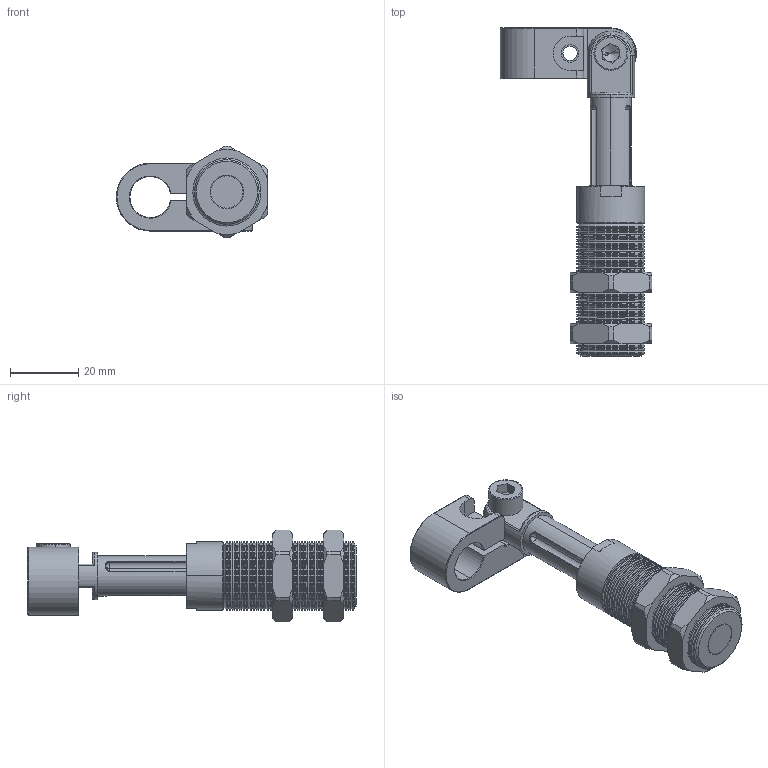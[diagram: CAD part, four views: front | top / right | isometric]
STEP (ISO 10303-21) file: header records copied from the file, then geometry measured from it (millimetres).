
FILE_DESCRIPTION (( 'STEP AP214' ), '1' );
FILE_NAME ('GSRT2026-12.STEP', '2019-11-12T08:10:11', ( '微软用户' ), ( '微软中国' ), 'SwSTEP 2.0', 'SolidWorks 2016', '' );
FILE_SCHEMA (( 'AUTOMOTIVE_DESIGN' ));
Length unit declared in the file: millimetre
Products named in the file (1): GSRT2026-12
Bounding box: 44.5 x 96.5 x 27 mm (x, y, z)
Volume: 26850.3 mm3; surface area: 18876.3 mm2
Topology: 7 solids, 7 shells, 548 faces, 1267 edges, 744 vertices
Faces by surface type: cone 243, cylinder 190, plane 79, sphere 14, bspline 12, torus 10
Entity records: 27167 total; most frequent: CARTESIAN_POINT 8680, DIRECTION 2710, ORIENTED_EDGE 2530, EDGE_CURVE 1265, AXIS2_PLACEMENT_3D 1087, VERTEX_POINT 744, EDGE_LOOP 583, UNCERTAINTY_MEASURE_WITH_UNIT 557
